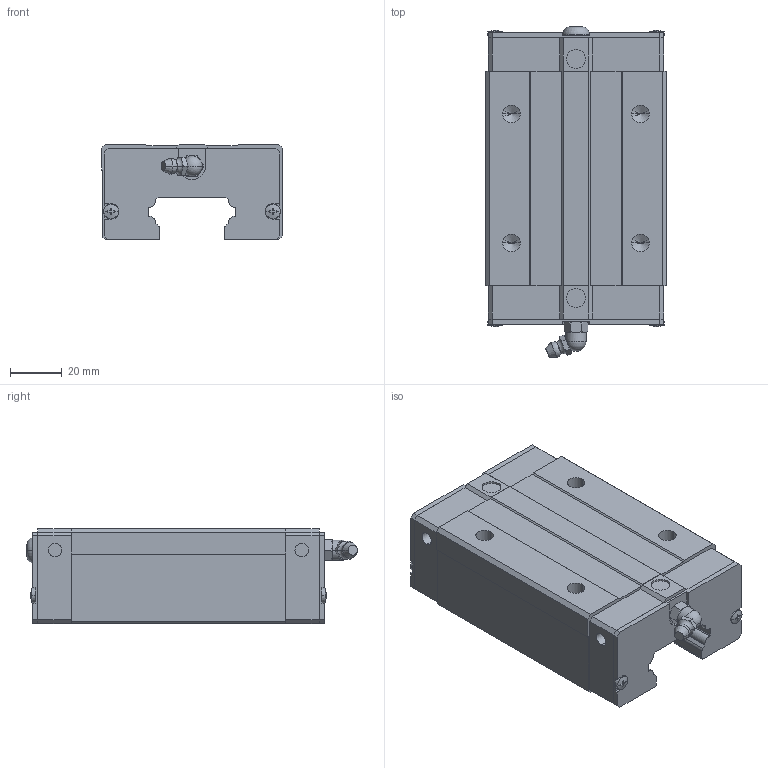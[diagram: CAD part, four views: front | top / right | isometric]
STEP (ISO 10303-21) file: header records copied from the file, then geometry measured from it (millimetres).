
FILE_DESCRIPTION(('no description'),'unknown implementation level');
FILE_NAME('QEH35CA_Z0_H_SS_1.stp',' ',('HIWIN GmbH'),('CADClick - KiM GmbH - www.kimweb.de'),'unknown preprocess','ACIS','unknown authorization');
FILE_SCHEMA(('automotive_design'));
Length unit declared in the file: millimetre
Products named in the file (1): QEH35CA Z0 H SS
Bounding box: 70 x 128.11 x 37 mm (x, y, z)
Volume: 227292.3 mm3; surface area: 35191 mm2
Topology: 1 solids, 5 shells, 352 faces, 937 edges, 599 vertices
Faces by surface type: plane 206, cylinder 80, cone 46, torus 18, sphere 2
Entity records: 21652 total; most frequent: CARTESIAN_POINT 2575, STYLED_ITEM 1879, PRESENTATION_STYLE_ASSIGNMENT 1879, COLOUR_RGB 1879, ORIENTED_EDGE 1854, DIRECTION 1756, EDGE_CURVE 927, CURVE_STYLE 927
